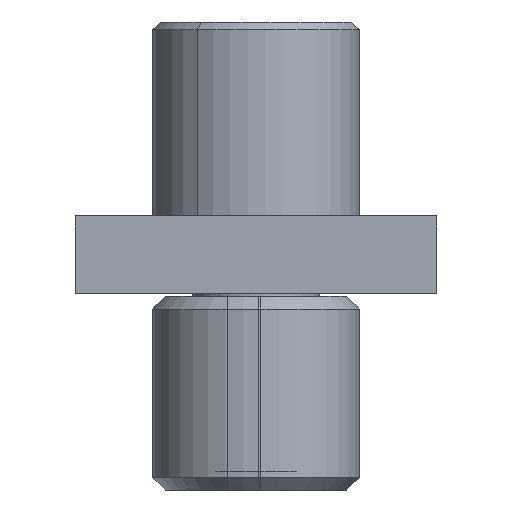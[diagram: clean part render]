
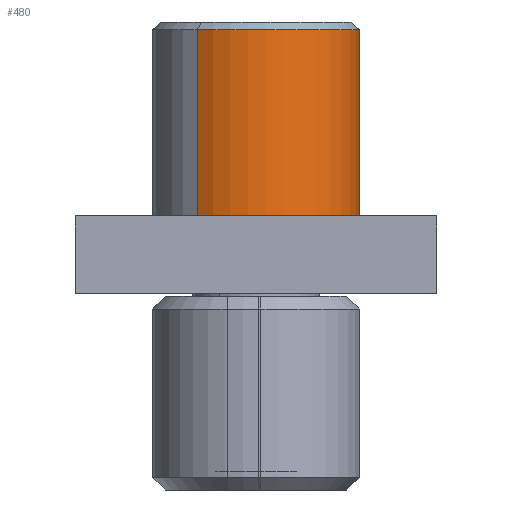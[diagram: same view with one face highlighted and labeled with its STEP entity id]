
A CAD part, left-side view. The second image highlights one B-rep face of the part: STEP entity #480.
In plain terms, the highlighted cylindrical face has radius 4 mm (diameter 8 mm), a partial arc.
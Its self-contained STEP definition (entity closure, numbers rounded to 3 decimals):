
#57 = DIRECTION ( 'NONE',  ( 0., 0., -1. ) ) ;
#94 = CARTESIAN_POINT ( 'NONE',  ( 0., 4., -0.3 ) ) ;
#155 = LINE ( 'NONE', #664, #721 ) ;
#204 = ORIENTED_EDGE ( 'NONE', *, *, #275, .F. ) ;
#214 = CYLINDRICAL_SURFACE ( 'NONE', #1164, 4. ) ;
#275 = EDGE_CURVE ( 'NONE', #821, #412, #155, .T. ) ;
#276 = VERTEX_POINT ( 'NONE', #94 ) ;
#298 = LINE ( 'NONE', #377, #601 ) ;
#300 = CARTESIAN_POINT ( 'NONE',  ( 0., -4., -0.3 ) ) ;
#350 = DIRECTION ( 'NONE',  ( 0., 0., -1. ) ) ;
#369 = DIRECTION ( 'NONE',  ( 0., 1., 0. ) ) ;
#377 = CARTESIAN_POINT ( 'NONE',  ( 0., 4., -18.1 ) ) ;
#412 = VERTEX_POINT ( 'NONE', #714 ) ;
#480 = ADVANCED_FACE ( 'NONE', ( #942 ), #214, .T. ) ;
#498 = AXIS2_PLACEMENT_3D ( 'NONE', #1246, #1144, #369 ) ;
#561 = CARTESIAN_POINT ( 'NONE',  ( 0., 4., -7.5 ) ) ;
#601 = VECTOR ( 'NONE', #1377, 1000. ) ;
#610 = VERTEX_POINT ( 'NONE', #561 ) ;
#638 = ORIENTED_EDGE ( 'NONE', *, *, #1067, .F. ) ;
#639 = ORIENTED_EDGE ( 'NONE', *, *, #1013, .T. ) ;
#664 = CARTESIAN_POINT ( 'NONE',  ( 0., -4., -18.1 ) ) ;
#714 = CARTESIAN_POINT ( 'NONE',  ( 0., -4., -7.5 ) ) ;
#721 = VECTOR ( 'NONE', #57, 1000. ) ;
#751 = CIRCLE ( 'NONE', #853, 4. ) ;
#763 = EDGE_LOOP ( 'NONE', ( #204, #1172, #639, #638 ) ) ;
#810 = CIRCLE ( 'NONE', #498, 4. ) ;
#821 = VERTEX_POINT ( 'NONE', #300 ) ;
#853 = AXIS2_PLACEMENT_3D ( 'NONE', #1129, #350, #1018 ) ;
#942 = FACE_OUTER_BOUND ( 'NONE', #763, .T. ) ;
#1013 = EDGE_CURVE ( 'NONE', #276, #610, #298, .T. ) ;
#1018 = DIRECTION ( 'NONE',  ( 0., 1., 0. ) ) ;
#1067 = EDGE_CURVE ( 'NONE', #412, #610, #810, .T. ) ;
#1086 = DIRECTION ( 'NONE',  ( 0., 1., 0. ) ) ;
#1129 = CARTESIAN_POINT ( 'NONE',  ( 0., 0., -0.3 ) ) ;
#1136 = EDGE_CURVE ( 'NONE', #821, #276, #751, .T. ) ;
#1144 = DIRECTION ( 'NONE',  ( 0., 0., -1. ) ) ;
#1164 = AXIS2_PLACEMENT_3D ( 'NONE', #1195, #1278, #1086 ) ;
#1172 = ORIENTED_EDGE ( 'NONE', *, *, #1136, .T. ) ;
#1195 = CARTESIAN_POINT ( 'NONE',  ( 0., 0., -18.1 ) ) ;
#1246 = CARTESIAN_POINT ( 'NONE',  ( 0., 0., -7.5 ) ) ;
#1278 = DIRECTION ( 'NONE',  ( 0., 0., -1. ) ) ;
#1377 = DIRECTION ( 'NONE',  ( 0., 0., -1. ) ) ;
